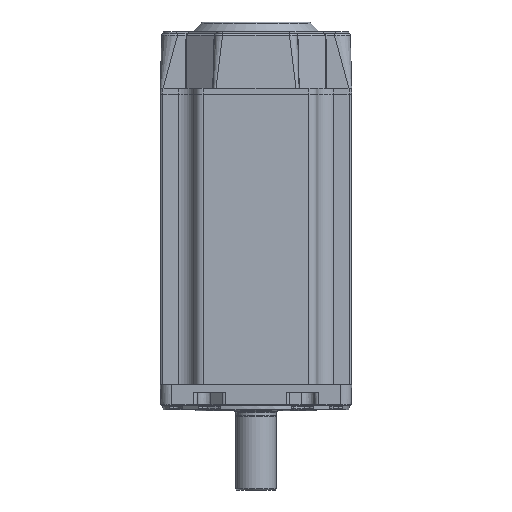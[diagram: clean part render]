
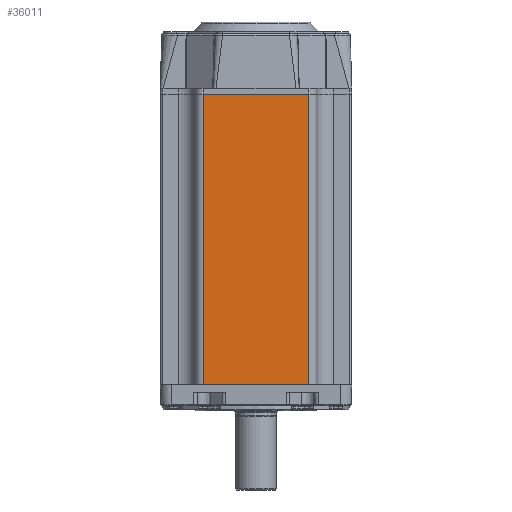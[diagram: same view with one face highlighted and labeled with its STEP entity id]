
A CAD part, front view. The second image highlights one B-rep face of the part: STEP entity #36011.
In plain terms, the highlighted planar face has unit normal (0, -1, 0).
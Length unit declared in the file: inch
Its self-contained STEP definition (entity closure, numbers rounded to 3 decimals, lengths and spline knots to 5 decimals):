
#33808=CARTESIAN_POINT('',(1.2275,-2.225,-6.75));
#33809=VERTEX_POINT('',#33808);
#33816=CARTESIAN_POINT('',(-1.2275,-2.225,-6.75));
#33817=VERTEX_POINT('',#33816);
#33818=CARTESIAN_POINT('',(-1.2275,-2.225,-6.75));
#33819=DIRECTION('',(1.0,0.0,0.0));
#33820=VECTOR('',#33819,2.455);
#33821=LINE('',#33818,#33820);
#33822=EDGE_CURVE('',#33817,#33809,#33821,.T.);
#35928=CARTESIAN_POINT('',(1.2275,-2.225,0.));
#35929=VERTEX_POINT('',#35928);
#35937=CARTESIAN_POINT('',(1.2275,-2.225,0.));
#35938=DIRECTION('',(0.0,0.0,-1.0));
#35939=VECTOR('',#35938,6.75);
#35940=LINE('',#35937,#35939);
#35941=EDGE_CURVE('',#35929,#33809,#35940,.T.);
#35988=CARTESIAN_POINT('',(1.415,-2.225,0.0));
#35989=DIRECTION('',(0.0,-1.0,0.0));
#35990=DIRECTION('',(0.0,0.0,-1.0));
#35991=AXIS2_PLACEMENT_3D('',#35988,#35989,#35990);
#35992=PLANE('',#35991);
#35993=CARTESIAN_POINT('',(-1.2275,-2.225,0.));
#35994=VERTEX_POINT('',#35993);
#35995=CARTESIAN_POINT('',(1.2275,-2.225,0.));
#35996=DIRECTION('',(-1.0,0.0,0.0));
#35997=VECTOR('',#35996,2.455);
#35998=LINE('',#35995,#35997);
#35999=EDGE_CURVE('',#35929,#35994,#35998,.T.);
#36000=ORIENTED_EDGE('',*,*,#35999,.T.);
#36001=CARTESIAN_POINT('',(-1.2275,-2.225,-6.75));
#36002=DIRECTION('',(0.0,0.0,1.0));
#36003=VECTOR('',#36002,6.75);
#36004=LINE('',#36001,#36003);
#36005=EDGE_CURVE('',#33817,#35994,#36004,.T.);
#36006=ORIENTED_EDGE('',*,*,#36005,.F.);
#36007=ORIENTED_EDGE('',*,*,#33822,.T.);
#36008=ORIENTED_EDGE('',*,*,#35941,.F.);
#36009=EDGE_LOOP('',(#36000,#36006,#36007,#36008));
#36010=FACE_OUTER_BOUND('',#36009,.T.);
#36011=ADVANCED_FACE('',(#36010),#35992,.T.);
